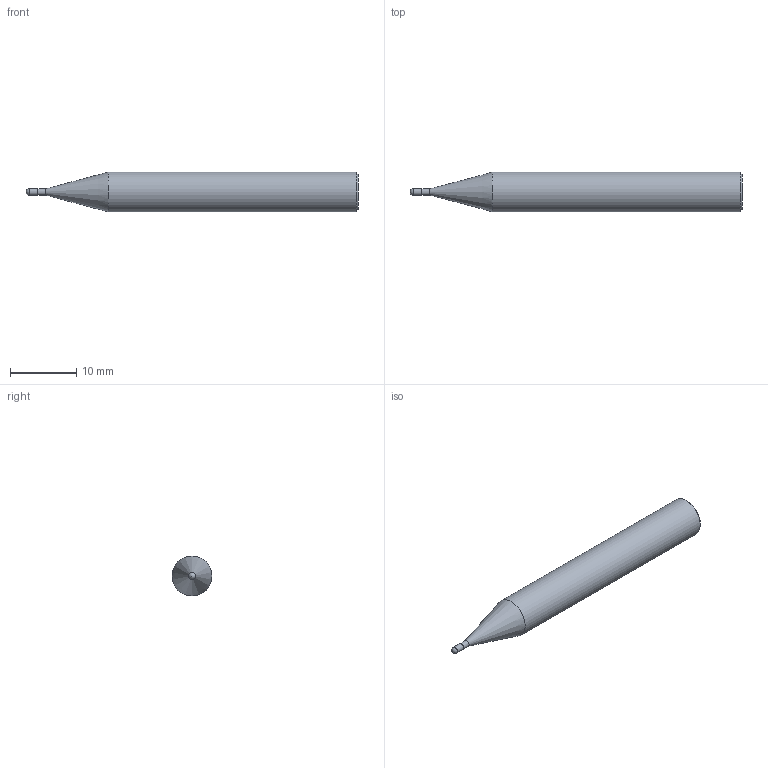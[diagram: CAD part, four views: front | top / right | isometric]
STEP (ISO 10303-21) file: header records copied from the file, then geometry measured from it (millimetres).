
FILE_DESCRIPTION(/* description */ (''),/* implementation_level */ '2;1');
FILE_NAME(/* name */ 'HSXBC4010 0650.stp',/* time_stamp */ '2026-01-27T10:21:24+08:00',/* author */ (''),/* organization */ (''),/* preprocessor_version */ 'ST-DEVELOPER v16',/* originating_system */ 'SIEMENS PLM Software NX 10.0',/* authorisation */ '');
FILE_SCHEMA (('CONFIG_CONTROL_DESIGN'));
Length unit declared in the file: millimetre
Products named in the file (1): HSXBC4010 0650_dxf
Bounding box: 50 x 6 x 6 mm (x, y, z)
Volume: 1168.9 mm3; surface area: 849 mm2
Topology: 1 solids, 1 shells, 8 faces, 15 edges, 9 vertices
Faces by surface type: cylinder 3, plane 2, cone 2, sphere 1
Full cylindrical faces by diameter (mm): 0.95 x1, 1 x1, 6 x1
Entity records: 238 total; most frequent: DIRECTION 32, CARTESIAN_POINT 23, AXIS2_PLACEMENT_3D 16, EDGE_LOOP 14, ORIENTED_EDGE 14, FACE_BOUND 12, ADVANCED_FACE 8, PERSON_AND_ORGANIZATION 7
